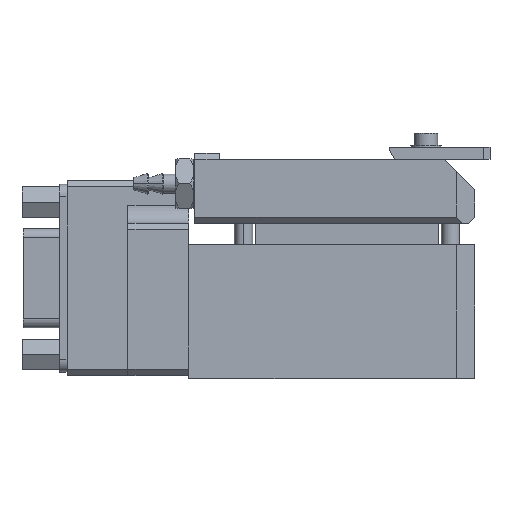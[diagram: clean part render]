
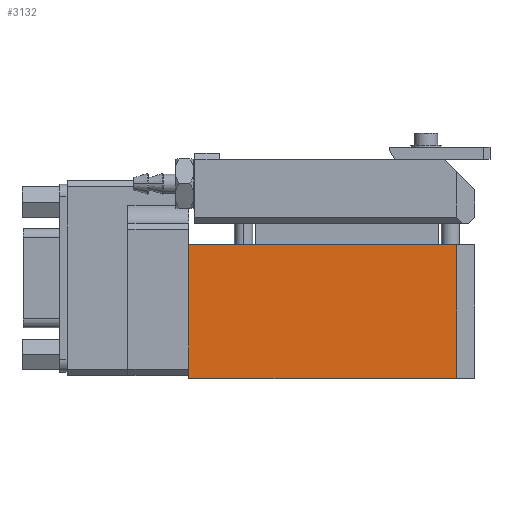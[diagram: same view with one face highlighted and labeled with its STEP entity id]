
A CAD part, top view. The second image highlights one B-rep face of the part: STEP entity #3132.
In plain terms, the highlighted planar face has unit normal (0, 0, 1).
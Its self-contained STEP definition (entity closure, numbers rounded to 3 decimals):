
#361 = ORIENTED_EDGE ( 'NONE', *, *, #15385, .F. ) ;
#442 = ORIENTED_EDGE ( 'NONE', *, *, #16398, .T. ) ;
#511 = ORIENTED_EDGE ( 'NONE', *, *, #10931, .T. ) ;
#1059 = LINE ( 'NONE', #17839, #11083 ) ;
#1130 = CARTESIAN_POINT ( 'NONE',  ( -23.5, -11., 13. ) ) ;
#1225 = CARTESIAN_POINT ( 'NONE',  ( -23.5, -9.5, 13. ) ) ;
#1404 = CARTESIAN_POINT ( 'NONE',  ( -23.5, 0.667, 13. ) ) ;
#1548 = CARTESIAN_POINT ( 'NONE',  ( -23.5, 11., 13. ) ) ;
#1778 = ORIENTED_EDGE ( 'NONE', *, *, #12653, .F. ) ;
#2769 = PLANE ( 'NONE',  #9291 ) ;
#2910 = DIRECTION ( 'NONE',  ( 0., 0., 1. ) ) ;
#2947 = VERTEX_POINT ( 'NONE', #12349 ) ;
#3103 = CARTESIAN_POINT ( 'NONE',  ( 5.833, 11., 13. ) ) ;
#3132 = ADVANCED_FACE ( 'NONE', ( #8215 ), #2769, .T. ) ;
#3239 = CARTESIAN_POINT ( 'NONE',  ( -23.5, 11., 13. ) ) ;
#4516 = LINE ( 'NONE', #10910, #19969 ) ;
#4541 = CARTESIAN_POINT ( 'NONE',  ( -23.5, -7.833, 13. ) ) ;
#5464 = LINE ( 'NONE', #1130, #17987 ) ;
#5801 = VERTEX_POINT ( 'NONE', #20199 ) ;
#5892 = DIRECTION ( 'NONE',  ( 0., 1., 0. ) ) ;
#6093 = CARTESIAN_POINT ( 'NONE',  ( 20.5, 11., 13. ) ) ;
#6644 = ORIENTED_EDGE ( 'NONE', *, *, #21344, .T. ) ;
#7086 = B_SPLINE_CURVE_WITH_KNOTS ( 'NONE', 3,
 ( #1225, #4541, #14718, #9699 ),
 .UNSPECIFIED., .F., .F.,
 ( 4, 4 ),
 ( 0., 1. ),
 .UNSPECIFIED. ) ;
#7382 = EDGE_LOOP ( 'NONE', ( #6644, #442, #511, #1778, #361, #17918 ) ) ;
#8215 = FACE_OUTER_BOUND ( 'NONE', #7382, .T. ) ;
#8417 = CARTESIAN_POINT ( 'NONE',  ( -8.833, 11., 13. ) ) ;
#9291 = AXIS2_PLACEMENT_3D ( 'NONE', #16189, #2910, #17899 ) ;
#9558 = DIRECTION ( 'NONE',  ( 1., 0., 0. ) ) ;
#9699 = CARTESIAN_POINT ( 'NONE',  ( -23.5, -4.5, 13. ) ) ;
#9718 = VERTEX_POINT ( 'NONE', #19541 ) ;
#10910 = CARTESIAN_POINT ( 'NONE',  ( 20.5, -11., 13. ) ) ;
#10931 = EDGE_CURVE ( 'NONE', #15900, #20538, #19952, .T. ) ;
#11083 = VECTOR ( 'NONE', #9558, 1000. ) ;
#11901 = EDGE_CURVE ( 'NONE', #2947, #5801, #5464, .T. ) ;
#12349 = CARTESIAN_POINT ( 'NONE',  ( -23.5, -11., 13. ) ) ;
#12653 = EDGE_CURVE ( 'NONE', #17177, #20538, #18835, .T. ) ;
#14718 = CARTESIAN_POINT ( 'NONE',  ( -23.5, -6.167, 13. ) ) ;
#14961 = CARTESIAN_POINT ( 'NONE',  ( 20.5, 11., 13. ) ) ;
#15385 = EDGE_CURVE ( 'NONE', #5801, #17177, #7086, .T. ) ;
#15900 = VERTEX_POINT ( 'NONE', #6093 ) ;
#16189 = CARTESIAN_POINT ( 'NONE',  ( 24.9, -13.2, 13. ) ) ;
#16398 = EDGE_CURVE ( 'NONE', #9718, #15900, #4516, .T. ) ;
#16419 = CARTESIAN_POINT ( 'NONE',  ( -23.5, -4.5, 13. ) ) ;
#16558 = CARTESIAN_POINT ( 'NONE',  ( -23.5, -4.5, 13. ) ) ;
#17177 = VERTEX_POINT ( 'NONE', #16419 ) ;
#17839 = CARTESIAN_POINT ( 'NONE',  ( -23.5, -11., 13. ) ) ;
#17897 = CARTESIAN_POINT ( 'NONE',  ( -23.5, 11., 13. ) ) ;
#17899 = DIRECTION ( 'NONE',  ( 0., 1., 0. ) ) ;
#17918 = ORIENTED_EDGE ( 'NONE', *, *, #11901, .F. ) ;
#17987 = VECTOR ( 'NONE', #5892, 1000. ) ;
#18835 = B_SPLINE_CURVE_WITH_KNOTS ( 'NONE', 3,
 ( #16558, #1404, #21581, #3239 ),
 .UNSPECIFIED., .F., .F.,
 ( 4, 4 ),
 ( 0., 1. ),
 .UNSPECIFIED. ) ;
#19541 = CARTESIAN_POINT ( 'NONE',  ( 20.5, -11., 13. ) ) ;
#19952 = B_SPLINE_CURVE_WITH_KNOTS ( 'NONE', 3,
 ( #14961, #3103, #8417, #1548 ),
 .UNSPECIFIED., .F., .F.,
 ( 4, 4 ),
 ( 0., 1. ),
 .UNSPECIFIED. ) ;
#19969 = VECTOR ( 'NONE', #20712, 1000. ) ;
#20199 = CARTESIAN_POINT ( 'NONE',  ( -23.5, -9.5, 13. ) ) ;
#20538 = VERTEX_POINT ( 'NONE', #17897 ) ;
#20712 = DIRECTION ( 'NONE',  ( 0., 1., 0. ) ) ;
#21344 = EDGE_CURVE ( 'NONE', #2947, #9718, #1059, .T. ) ;
#21581 = CARTESIAN_POINT ( 'NONE',  ( -23.5, 5.833, 13. ) ) ;
